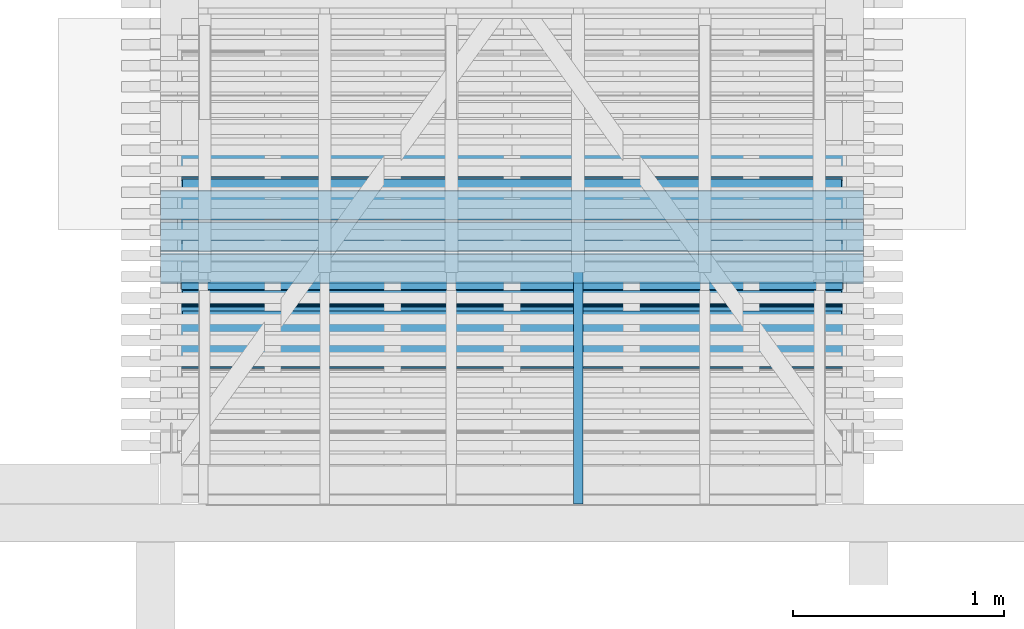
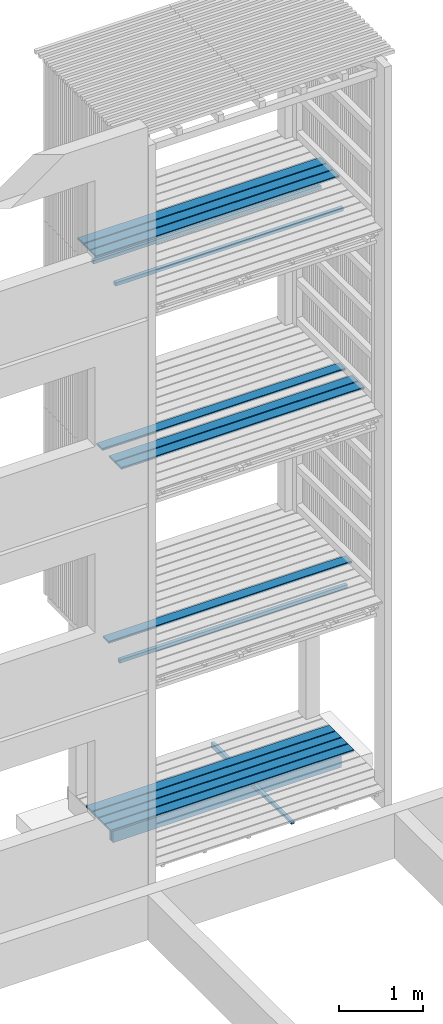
# One storey, part 120 of 182: 16 beams.
"""IFC2X3 building model written with IfcOpenShell, lengths in metres."""

from ifc_helpers import new_model, si_unit, frame, origin, place, context, project, spatial, faceted_brep, element, save


model = new_model("IFC2X3")

# Units and contexts
model_context = context("Model", 3, precision=1e-06, world=origin())
ifc_project = project(units=[si_unit("LENGTHUNIT", "METRE"), si_unit("PLANEANGLEUNIT", "RADIAN")], contexts=[model_context])

# Site, building, storey
site = spatial("IfcSite", under=ifc_project, CompositionType="ELEMENT")
building = spatial("IfcBuilding", under=site, CompositionType="ELEMENT")
storey = spatial("IfcBuildingStorey", under=building, Name="vs", CompositionType="ELEMENT", Elevation=-0.85)

# Beams
placement = place(None, origin())
beam_1_placement = place(placement, frame((56.24999999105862, 6.38341109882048, 7.86739999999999), z_axis=(0.0, 0.0, 1.0), x_axis=(-1.0, 0.0, 0.0)))
element("IfcBeam", 1, at=beam_1_placement, inside=storey, Name="Bardage", context=model_context, shape_type="Brep", body=[
    faceted_brep([(3.120000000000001, 0.025000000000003, -0.024999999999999), (3.120000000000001, 0.025000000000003, 0.025000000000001), (3.120000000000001, -0.025000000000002, 0.025000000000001), (3.120000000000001, -0.025000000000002, -0.024999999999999), (-3e-15, -0.025000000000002, -0.024999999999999), (-3e-15, -0.025000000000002, 0.025000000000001), (-3e-15, 0.024999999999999, 0.025000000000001), (-3e-15, 0.024999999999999, -0.024999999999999), (-3e-15, 0.024999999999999, -0.024999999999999), (-3e-15, 0.024999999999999, 0.025000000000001), (3.120000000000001, 0.025000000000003, 0.025000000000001), (3.120000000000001, 0.025000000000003, -0.024999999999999), (-3e-15, 0.024999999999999, 0.025000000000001), (-3e-15, -0.025000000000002, 0.025000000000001), (3.120000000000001, -0.025000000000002, 0.025000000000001), (3.120000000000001, 0.025000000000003, 0.025000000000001), (-3e-15, -0.025000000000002, 0.025000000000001), (-3e-15, -0.025000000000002, -0.024999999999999), (3.120000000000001, -0.025000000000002, -0.024999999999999), (3.120000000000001, -0.025000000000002, 0.025000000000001), (-3e-15, -0.025000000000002, -0.024999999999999), (-3e-15, 0.024999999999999, -0.024999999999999), (3.120000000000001, 0.025000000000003, -0.024999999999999), (3.120000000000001, -0.025000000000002, -0.024999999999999)], [[[0, 1, 2, 3]], [[4, 5, 6, 7]], [[8, 9, 10, 11]], [[12, 13, 14, 15]], [[16, 17, 18, 19]], [[20, 21, 22, 23]]]),
])
beam_2_placement = place(placement, frame((56.35499999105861, 5.834577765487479, 0.033500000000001), z_axis=(0.0, 0.0, 1.0), x_axis=(-1.0, 0.0, 0.0)))
element("IfcBeam", 2, at=beam_2_placement, inside=storey, Name="Caillebotis", context=model_context, shape_type="Brep", body=[
    faceted_brep([(3.329999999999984, -0.067499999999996, 0.0135), (3.329999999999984, -0.072499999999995, 0.008500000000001), (3.329999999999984, -0.072499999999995, -0.013500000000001), (3.329999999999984, 0.072500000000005, -0.013500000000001), (3.329999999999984, 0.072500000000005, 0.0085), (3.329999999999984, 0.067500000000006, 0.0135), (0.0, 0.067500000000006, 0.0135), (0.0, 0.072500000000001, 0.0085), (0.0, 0.072500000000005, -0.013500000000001), (0.0, -0.072499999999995, -0.013500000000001), (0.0, -0.072499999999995, 0.008500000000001), (0.0, -0.067499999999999, 0.0135), (3.329999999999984, -0.072499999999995, -0.013500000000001), (3.329999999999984, -0.072499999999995, 0.008500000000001), (0.0, -0.072499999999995, 0.008500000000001), (0.0, -0.072499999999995, -0.013500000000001), (3.329999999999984, 0.072500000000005, -0.013500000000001), (3.329999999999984, -0.072499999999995, -0.013500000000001), (0.0, -0.072499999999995, -0.013500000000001), (0.0, 0.072500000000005, -0.013500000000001), (3.329999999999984, 0.072500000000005, 0.0085), (3.329999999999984, 0.072500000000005, -0.013500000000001), (0.0, 0.072500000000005, -0.013500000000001), (0.0, 0.072500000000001, 0.0085), (3.329999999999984, 0.067500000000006, 0.0135), (3.329999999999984, 0.072500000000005, 0.0085), (0.0, 0.072500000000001, 0.0085), (0.0, 0.067500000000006, 0.0135), (3.329999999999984, -0.067499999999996, 0.0135), (3.329999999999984, 0.067500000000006, 0.0135), (0.0, 0.067500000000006, 0.0135), (0.0, -0.067499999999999, 0.0135), (0.0, -0.072499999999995, 0.008500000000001), (3.329999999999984, -0.072499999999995, 0.008500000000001), (3.329999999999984, -0.067499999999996, 0.0135), (0.0, -0.067499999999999, 0.0135)], [[[0, 1, 2, 3, 4, 5]], [[6, 7, 8, 9, 10, 11]], [[12, 13, 14, 15]], [[16, 17, 18, 19]], [[20, 21, 22, 23]], [[24, 25, 26, 27]], [[28, 29, 30, 31]], [[32, 33, 34, 35]]]),
])
beam_3_placement = place(placement, frame((56.35499999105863, 5.584577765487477, 5.433499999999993), z_axis=(0.0, 0.0, 1.0), x_axis=(-1.0, 0.0, 0.0)))
element("IfcBeam", 3, at=beam_3_placement, inside=storey, Name="Caillebotis", context=model_context, shape_type="Brep", body=[
    faceted_brep([(3.329999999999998, -0.072499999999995, -0.0135), (3.329999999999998, 0.072500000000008, -0.0135), (3.329999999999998, 0.072500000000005, 0.0085), (3.329999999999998, 0.067500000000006, 0.0135), (3.329999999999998, -0.067499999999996, 0.0135), (3.329999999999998, -0.072499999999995, 0.008500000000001), (0.0, -0.072499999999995, 0.008500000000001), (0.0, -0.067499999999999, 0.0135), (0.0, 0.067500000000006, 0.0135), (0.0, 0.072500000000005, 0.0085), (0.0, 0.072500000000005, -0.0135), (0.0, -0.072499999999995, -0.0135), (3.329999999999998, 0.072500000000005, 0.0085), (3.329999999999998, 0.072500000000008, -0.0135), (0.0, 0.072500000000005, -0.0135), (0.0, 0.072500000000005, 0.0085), (3.329999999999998, 0.067500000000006, 0.0135), (3.329999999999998, 0.072500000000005, 0.0085), (0.0, 0.072500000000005, 0.0085), (0.0, 0.067500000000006, 0.0135), (3.329999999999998, -0.067499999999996, 0.0135), (3.329999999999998, 0.067500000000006, 0.0135), (0.0, 0.067500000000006, 0.0135), (0.0, -0.067499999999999, 0.0135), (3.329999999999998, -0.072499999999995, 0.008500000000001), (3.329999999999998, -0.067499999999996, 0.0135), (0.0, -0.067499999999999, 0.0135), (0.0, -0.072499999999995, 0.008500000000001), (3.329999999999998, -0.072499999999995, -0.0135), (3.329999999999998, -0.072499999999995, 0.008500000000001), (0.0, -0.072499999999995, 0.008500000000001), (0.0, -0.072499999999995, -0.0135), (0.0, 0.072500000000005, -0.0135), (3.329999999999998, 0.072500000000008, -0.0135), (3.329999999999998, -0.072499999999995, -0.0135), (0.0, -0.072499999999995, -0.0135)], [[[0, 1, 2, 3, 4, 5]], [[6, 7, 8, 9, 10, 11]], [[12, 13, 14, 15]], [[16, 17, 18, 19]], [[20, 21, 22, 23]], [[24, 25, 26, 27]], [[28, 29, 30, 31]], [[32, 33, 34, 35]]]),
])
beam_4_placement = place(placement, frame((55.00299999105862, 4.870077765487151, -0.015599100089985), z_axis=(0.0, 0.0, 1.0), x_axis=(0.0, 1.0, 0.0)))
element("IfcBeam", 4, at=beam_4_placement, inside=storey, Name="Calage", context=model_context, shape_type="Brep", body=[
    faceted_brep([(0.0, 0.02249999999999, 0.002600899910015), (1.91000000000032, 0.02249999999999, -0.035599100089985), (1.91000000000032, -0.022499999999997, -0.035599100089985), (0.0, -0.022499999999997, 0.002600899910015), (0.0, -0.022499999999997, 0.035599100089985), (0.0, 0.02249999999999, 0.035599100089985), (0.0, 0.02249999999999, 0.002600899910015), (0.0, -0.022499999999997, 0.002600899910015), (0.0, 0.02249999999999, 0.035599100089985), (0.0, -0.022499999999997, 0.035599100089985), (1.91000000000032, -0.022499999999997, 0.035599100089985), (1.91000000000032, 0.02249999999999, 0.035599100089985), (0.0, 0.02249999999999, 0.002600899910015), (0.0, 0.02249999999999, 0.035599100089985), (1.91000000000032, 0.02249999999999, 0.035599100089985), (1.91000000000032, 0.02249999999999, -0.035599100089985), (1.91000000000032, 0.02249999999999, -0.035599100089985), (1.91000000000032, 0.02249999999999, 0.035599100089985), (1.91000000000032, -0.022499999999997, 0.035599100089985), (1.91000000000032, -0.022499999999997, -0.035599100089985), (1.91000000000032, -0.022499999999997, -0.035599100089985), (1.91000000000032, -0.022499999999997, 0.035599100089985), (0.0, -0.022499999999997, 0.035599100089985), (0.0, -0.022499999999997, 0.002600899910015)], [[[0, 1, 2, 3]], [[4, 5, 6, 7]], [[8, 9, 10, 11]], [[12, 13, 14, 15]], [[16, 17, 18, 19]], [[20, 21, 22, 23]]]),
])
beam_5_placement = place(placement, frame((56.24999999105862, 5.855077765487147, 7.867999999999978), z_axis=(0.0, 0.0, 1.0), x_axis=(-1.0, -1e-15, 0.0)))
element("IfcBeam", 5, at=beam_5_placement, inside=storey, Name="Bardage", context=model_context, shape_type="Brep", body=[
    faceted_brep([(3.120000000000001, 0.025000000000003, -0.025000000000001), (3.120000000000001, -0.025000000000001, -0.025000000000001), (-3e-15, -0.024999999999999, -0.025000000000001), (-3e-15, 0.025000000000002, -0.025000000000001), (-3e-15, -0.024999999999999, -0.025000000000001), (3.120000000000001, -0.025000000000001, -0.025000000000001), (3.120000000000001, -0.025000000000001, 0.024999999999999), (-3e-15, -0.024999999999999, 0.024999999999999), (3.120000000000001, -0.025000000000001, -0.025000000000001), (3.120000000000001, 0.025000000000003, -0.025000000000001), (3.120000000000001, 0.025000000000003, 0.024999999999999), (3.120000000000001, -0.025000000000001, 0.024999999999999), (3.120000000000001, 0.025000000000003, 0.024999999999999), (3.120000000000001, 0.025000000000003, -0.025000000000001), (-3e-15, 0.025000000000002, -0.025000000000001), (-3e-15, 0.025000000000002, 0.024999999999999), (-3e-15, -0.024999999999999, 0.024999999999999), (3.120000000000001, -0.025000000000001, 0.024999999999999), (3.120000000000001, 0.025000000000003, 0.024999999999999), (-3e-15, 0.025000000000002, 0.024999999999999), (-3e-15, -0.024999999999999, -0.025000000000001), (-3e-15, -0.024999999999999, 0.024999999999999), (-3e-15, 0.025000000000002, 0.024999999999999), (-3e-15, 0.025000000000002, -0.025000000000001)], [[[0, 1, 2, 3]], [[4, 5, 6, 7]], [[8, 9, 10, 11]], [[12, 13, 14, 15]], [[16, 17, 18, 19]], [[20, 21, 22, 23]]]),
])
beam_6_placement = place(placement, frame((56.35499999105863, 5.734577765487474, 5.433499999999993), z_axis=(0.0, 0.0, 1.0), x_axis=(-1.0, 0.0, 0.0)))
element("IfcBeam", 6, at=beam_6_placement, inside=storey, Name="Caillebotis", context=model_context, shape_type="Brep", body=[
    faceted_brep([(3.329999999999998, -0.072499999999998, -0.0135), (3.329999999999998, 0.072500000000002, -0.0135), (3.329999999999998, 0.072500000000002, 0.0085), (3.329999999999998, 0.067500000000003, 0.0135), (3.329999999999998, -0.067500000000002, 0.0135), (3.329999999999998, -0.072499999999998, 0.008500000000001), (0.0, -0.072499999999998, 0.008500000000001), (0.0, -0.067500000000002, 0.0135), (0.0, 0.067500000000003, 0.0135), (0.0, 0.072499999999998, 0.0085), (0.0, 0.072499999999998, -0.0135), (0.0, -0.072499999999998, -0.0135), (3.329999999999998, 0.072500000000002, 0.0085), (3.329999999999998, 0.072500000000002, -0.0135), (0.0, 0.072499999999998, -0.0135), (0.0, 0.072499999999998, 0.0085), (3.329999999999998, 0.067500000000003, 0.0135), (3.329999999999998, 0.072500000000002, 0.0085), (0.0, 0.072499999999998, 0.0085), (0.0, 0.067500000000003, 0.0135), (3.329999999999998, -0.067500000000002, 0.0135), (3.329999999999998, 0.067500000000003, 0.0135), (0.0, 0.067500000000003, 0.0135), (0.0, -0.067500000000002, 0.0135), (3.329999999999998, -0.072499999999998, 0.008500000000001), (3.329999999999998, -0.067500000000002, 0.0135), (0.0, -0.067500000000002, 0.0135), (0.0, -0.072499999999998, 0.008500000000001), (3.329999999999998, -0.072499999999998, -0.0135), (3.329999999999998, -0.072499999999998, 0.008500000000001), (0.0, -0.072499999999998, 0.008500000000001), (0.0, -0.072499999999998, -0.0135), (0.0, 0.072499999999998, -0.0135), (3.329999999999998, 0.072500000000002, -0.0135), (3.329999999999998, -0.072499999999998, -0.0135), (0.0, -0.072499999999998, -0.0135)], [[[0, 1, 2, 3, 4, 5]], [[6, 7, 8, 9, 10, 11]], [[12, 13, 14, 15]], [[16, 17, 18, 19]], [[20, 21, 22, 23]], [[24, 25, 26, 27]], [[28, 29, 30, 31]], [[32, 33, 34, 35]]]),
])
beam_7_placement = place(placement, frame((56.35499999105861, 6.134577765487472, 0.033500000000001), z_axis=(0.0, 0.0, 1.0), x_axis=(-1.0, 0.0, 0.0)))
element("IfcBeam", 7, at=beam_7_placement, inside=storey, Name="Caillebotis", context=model_context, shape_type="Brep", body=[
    faceted_brep([(3.329999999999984, -0.067500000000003, 0.0135), (3.329999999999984, -0.072499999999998, 0.008500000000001), (3.329999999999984, -0.072499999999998, -0.013500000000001), (3.329999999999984, 0.072499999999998, -0.013500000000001), (3.329999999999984, 0.072499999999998, 0.0085), (3.329999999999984, 0.067500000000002, 0.0135), (0.0, 0.067499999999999, 0.0135), (0.0, 0.072499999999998, 0.0085), (0.0, 0.072499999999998, -0.013500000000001), (0.0, -0.072500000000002, -0.013500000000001), (0.0, -0.072500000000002, 0.008500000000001), (0.0, -0.067500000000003, 0.0135), (3.329999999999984, -0.072499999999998, -0.013500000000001), (3.329999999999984, -0.072499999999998, 0.008500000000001), (0.0, -0.072500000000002, 0.008500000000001), (0.0, -0.072500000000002, -0.013500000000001), (3.329999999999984, 0.072499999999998, -0.013500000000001), (3.329999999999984, -0.072499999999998, -0.013500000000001), (0.0, -0.072500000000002, -0.013500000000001), (0.0, 0.072499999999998, -0.013500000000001), (3.329999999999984, 0.072499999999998, 0.0085), (3.329999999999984, 0.072499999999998, -0.013500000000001), (0.0, 0.072499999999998, -0.013500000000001), (0.0, 0.072499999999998, 0.0085), (3.329999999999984, 0.067500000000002, 0.0135), (3.329999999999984, 0.072499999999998, 0.0085), (0.0, 0.072499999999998, 0.0085), (0.0, 0.067499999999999, 0.0135), (3.329999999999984, -0.067500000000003, 0.0135), (3.329999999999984, 0.067500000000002, 0.0135), (0.0, 0.067499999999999, 0.0135), (0.0, -0.067500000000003, 0.0135), (0.0, -0.072500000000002, 0.008500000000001), (3.329999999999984, -0.072499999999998, 0.008500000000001), (3.329999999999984, -0.067500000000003, 0.0135), (0.0, -0.067500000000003, 0.0135)], [[[0, 1, 2, 3, 4, 5]], [[6, 7, 8, 9, 10, 11]], [[12, 13, 14, 15]], [[16, 17, 18, 19]], [[20, 21, 22, 23]], [[24, 25, 26, 27]], [[28, 29, 30, 31]], [[32, 33, 34, 35]]]),
])
beam_8_placement = place(placement, frame((56.35499999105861, 5.984577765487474, 0.033500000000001), z_axis=(0.0, 0.0, 1.0), x_axis=(-1.0, 0.0, 0.0)))
element("IfcBeam", 8, at=beam_8_placement, inside=storey, Name="Caillebotis", context=model_context, shape_type="Brep", body=[
    faceted_brep([(3.329999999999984, -0.067500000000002, 0.0135), (3.329999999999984, -0.072499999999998, 0.008500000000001), (3.329999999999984, -0.072499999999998, -0.013500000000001), (3.329999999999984, 0.072500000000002, -0.013500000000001), (3.329999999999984, 0.072499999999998, 0.0085), (3.329999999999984, 0.067500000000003, 0.0135), (0.0, 0.067500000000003, 0.0135), (0.0, 0.072499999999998, 0.0085), (0.0, 0.072499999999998, -0.013500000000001), (0.0, -0.072500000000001, -0.013500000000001), (0.0, -0.072500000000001, 0.008500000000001), (0.0, -0.067500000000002, 0.0135), (3.329999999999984, -0.072499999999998, -0.013500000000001), (3.329999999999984, -0.072499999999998, 0.008500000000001), (0.0, -0.072500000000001, 0.008500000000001), (0.0, -0.072500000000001, -0.013500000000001), (3.329999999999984, 0.072500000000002, -0.013500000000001), (3.329999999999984, -0.072499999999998, -0.013500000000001), (0.0, -0.072500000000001, -0.013500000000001), (0.0, 0.072499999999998, -0.013500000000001), (3.329999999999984, 0.072499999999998, 0.0085), (3.329999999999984, 0.072500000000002, -0.013500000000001), (0.0, 0.072499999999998, -0.013500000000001), (0.0, 0.072499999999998, 0.0085), (3.329999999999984, 0.067500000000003, 0.0135), (3.329999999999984, 0.072499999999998, 0.0085), (0.0, 0.072499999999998, 0.0085), (0.0, 0.067500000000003, 0.0135), (3.329999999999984, -0.067500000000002, 0.0135), (3.329999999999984, 0.067500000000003, 0.0135), (0.0, 0.067500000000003, 0.0135), (0.0, -0.067500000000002, 0.0135), (0.0, -0.072500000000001, 0.008500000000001), (3.329999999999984, -0.072499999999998, 0.008500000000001), (3.329999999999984, -0.067500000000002, 0.0135), (0.0, -0.067500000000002, 0.0135)], [[[0, 1, 2, 3, 4, 5]], [[6, 7, 8, 9, 10, 11]], [[12, 13, 14, 15]], [[16, 17, 18, 19]], [[20, 21, 22, 23]], [[24, 25, 26, 27]], [[28, 29, 30, 31]], [[32, 33, 34, 35]]]),
])
beam_9_placement = place(placement, frame((56.35499999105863, 6.184577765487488, 8.13349999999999), z_axis=(0.0, 0.0, 1.0), x_axis=(-1.0, -8e-15, 0.0)))
element("IfcBeam", 9, at=beam_9_placement, inside=storey, Name="Caillebotis", context=model_context, shape_type="Brep", body=[
    faceted_brep([(3.329999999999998, -0.072500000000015, -0.013500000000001), (3.329999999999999, 0.072499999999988, -0.013500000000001), (3.329999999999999, 0.072499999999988, 0.008499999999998), (3.329999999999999, 0.067499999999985, 0.013499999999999), (3.329999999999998, -0.067500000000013, 0.013499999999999), (3.329999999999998, -0.072500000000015, 0.0085), (-1e-15, -0.072499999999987, 0.0085), (-1e-15, -0.067499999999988, 0.013499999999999), (1e-15, 0.067500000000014, 0.013499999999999), (1e-15, 0.072500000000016, 0.008499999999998), (1e-15, 0.072500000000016, -0.013500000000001), (-1e-15, -0.072499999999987, -0.013500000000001), (3.329999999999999, 0.072499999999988, 0.008499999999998), (3.329999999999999, 0.072499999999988, -0.013500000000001), (1e-15, 0.072500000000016, -0.013500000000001), (1e-15, 0.072500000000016, 0.008499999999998), (3.329999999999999, 0.067499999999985, 0.013499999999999), (3.329999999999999, 0.072499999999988, 0.008499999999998), (1e-15, 0.072500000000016, 0.008499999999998), (1e-15, 0.067500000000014, 0.013499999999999), (3.329999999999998, -0.067500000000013, 0.013499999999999), (3.329999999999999, 0.067499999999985, 0.013499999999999), (1e-15, 0.067500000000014, 0.013499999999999), (-1e-15, -0.067499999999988, 0.013499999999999), (3.329999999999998, -0.072500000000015, 0.0085), (3.329999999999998, -0.067500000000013, 0.013499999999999), (-1e-15, -0.067499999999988, 0.013499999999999), (-1e-15, -0.072499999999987, 0.0085), (3.329999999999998, -0.072500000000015, -0.013500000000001), (3.329999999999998, -0.072500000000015, 0.0085), (-1e-15, -0.072499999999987, 0.0085), (-1e-15, -0.072499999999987, -0.013500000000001), (1e-15, 0.072500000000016, -0.013500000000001), (3.329999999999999, 0.072499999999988, -0.013500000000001), (3.329999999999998, -0.072500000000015, -0.013500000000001), (-1e-15, -0.072499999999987, -0.013500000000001)], [[[0, 1, 2, 3, 4, 5]], [[6, 7, 8, 9, 10, 11]], [[12, 13, 14, 15]], [[16, 17, 18, 19]], [[20, 21, 22, 23]], [[24, 25, 26, 27]], [[28, 29, 30, 31]], [[32, 33, 34, 35]]]),
])
beam_10_placement = place(placement, frame((56.35499999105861, 5.884577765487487, 2.733499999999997), z_axis=(0.0, 0.0, 1.0), x_axis=(-1.0, -8e-15, 0.0)))
element("IfcBeam", 10, at=beam_10_placement, inside=storey, Name="Caillebotis", context=model_context, shape_type="Brep", body=[
    faceted_brep([(3.329999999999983, -0.072500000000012, -0.0135), (3.329999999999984, 0.072499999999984, -0.0135), (3.329999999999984, 0.072499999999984, 0.0085), (3.329999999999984, 0.067499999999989, 0.0135), (3.329999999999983, -0.067500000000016, 0.0135), (3.329999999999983, -0.072500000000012, 0.008500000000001), (-1.5e-14, -0.072499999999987, 0.008500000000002), (-1.5e-14, -0.067499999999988, 0.0135), (-1.4e-14, 0.067500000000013, 0.0135), (-1.4e-14, 0.072500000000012, 0.0085), (-1.4e-14, 0.072500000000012, -0.0135), (-1.5e-14, -0.072499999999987, -0.0135), (3.329999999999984, 0.072499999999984, 0.0085), (3.329999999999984, 0.072499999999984, -0.0135), (-1.4e-14, 0.072500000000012, -0.0135), (-1.4e-14, 0.072500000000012, 0.0085), (3.329999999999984, 0.067499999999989, 0.0135), (3.329999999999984, 0.072499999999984, 0.0085), (-1.4e-14, 0.072500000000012, 0.0085), (-1.4e-14, 0.067500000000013, 0.0135), (3.329999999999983, -0.067500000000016, 0.0135), (3.329999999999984, 0.067499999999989, 0.0135), (-1.4e-14, 0.067500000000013, 0.0135), (-1.5e-14, -0.067499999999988, 0.0135), (3.329999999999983, -0.072500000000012, 0.008500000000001), (3.329999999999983, -0.067500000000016, 0.0135), (-1.5e-14, -0.067499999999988, 0.0135), (-1.5e-14, -0.072499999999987, 0.008500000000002), (3.329999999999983, -0.072500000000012, -0.0135), (3.329999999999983, -0.072500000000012, 0.008500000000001), (-1.5e-14, -0.072499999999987, 0.008500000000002), (-1.5e-14, -0.072499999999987, -0.0135), (-1.4e-14, 0.072500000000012, -0.0135), (3.329999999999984, 0.072499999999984, -0.0135), (3.329999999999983, -0.072500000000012, -0.0135), (-1.5e-14, -0.072499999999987, -0.0135)], [[[0, 1, 2, 3, 4, 5]], [[6, 7, 8, 9, 10, 11]], [[12, 13, 14, 15]], [[16, 17, 18, 19]], [[20, 21, 22, 23]], [[24, 25, 26, 27]], [[28, 29, 30, 31]], [[32, 33, 34, 35]]]),
])
beam_11_placement = place(placement, frame((56.24999999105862, 5.758202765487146, 2.467999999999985), z_axis=(0.0, 0.0, 1.0), x_axis=(-1.0, -1e-15, 0.0)))
element("IfcBeam", 11, at=beam_11_placement, inside=storey, Name="Bardage", context=model_context, shape_type="Brep", body=[
    faceted_brep([(3.120000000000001, 0.024999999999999, -0.025), (3.120000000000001, -0.025000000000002, -0.025), (-3e-15, -0.025000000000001, -0.025), (-3e-15, 0.025000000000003, -0.025), (-3e-15, -0.025000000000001, -0.025), (3.120000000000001, -0.025000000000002, -0.025), (3.120000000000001, -0.025000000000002, 0.025), (-3e-15, -0.025000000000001, 0.025), (3.120000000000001, -0.025000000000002, -0.025), (3.120000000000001, 0.024999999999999, -0.025), (3.120000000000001, 0.024999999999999, 0.025), (3.120000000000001, -0.025000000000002, 0.025), (3.120000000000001, 0.024999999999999, 0.025), (3.120000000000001, 0.024999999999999, -0.025), (-3e-15, 0.025000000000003, -0.025), (-3e-15, 0.025000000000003, 0.025), (-3e-15, -0.025000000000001, 0.025), (3.120000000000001, -0.025000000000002, 0.025), (3.120000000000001, 0.024999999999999, 0.025), (-3e-15, 0.025000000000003, 0.025), (-3e-15, -0.025000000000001, -0.025), (-3e-15, -0.025000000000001, 0.025), (-3e-15, 0.025000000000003, 0.025), (-3e-15, 0.025000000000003, -0.025)], [[[0, 1, 2, 3]], [[4, 5, 6, 7]], [[8, 9, 10, 11]], [[12, 13, 14, 15]], [[16, 17, 18, 19]], [[20, 21, 22, 23]]]),
])
beam_12_placement = place(placement, frame((56.35499999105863, 6.484577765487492, 8.133499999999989), z_axis=(0.0, 0.0, 1.0), x_axis=(-1.0, -1e-14, 0.0)))
element("IfcBeam", 12, at=beam_12_placement, inside=storey, Name="Caillebotis", context=model_context, shape_type="Brep", body=[
    faceted_brep([(3.329999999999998, -0.072500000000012, -0.013499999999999), (3.329999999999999, 0.072499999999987, -0.013499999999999), (3.329999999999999, 0.072499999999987, 0.0085), (3.329999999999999, 0.067499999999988, 0.013500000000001), (3.329999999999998, -0.067500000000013, 0.013500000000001), (3.329999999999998, -0.072500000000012, 0.008500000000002), (-1e-15, -0.07249999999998, 0.008500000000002), (-1e-15, -0.067499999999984, 0.013500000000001), (1e-15, 0.067500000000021, 0.013500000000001), (1e-15, 0.072500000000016, 0.0085), (1e-15, 0.072500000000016, -0.013499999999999), (-1e-15, -0.07249999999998, -0.013499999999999), (3.329999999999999, 0.072499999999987, 0.0085), (3.329999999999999, 0.072499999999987, -0.013499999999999), (1e-15, 0.072500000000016, -0.013499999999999), (1e-15, 0.072500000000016, 0.0085), (3.329999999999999, 0.067499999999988, 0.013500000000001), (3.329999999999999, 0.072499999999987, 0.0085), (1e-15, 0.072500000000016, 0.0085), (1e-15, 0.067500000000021, 0.013500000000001), (3.329999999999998, -0.067500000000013, 0.013500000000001), (3.329999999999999, 0.067499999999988, 0.013500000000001), (1e-15, 0.067500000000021, 0.013500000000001), (-1e-15, -0.067499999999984, 0.013500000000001), (3.329999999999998, -0.072500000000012, 0.008500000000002), (3.329999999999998, -0.067500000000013, 0.013500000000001), (-1e-15, -0.067499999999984, 0.013500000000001), (-1e-15, -0.07249999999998, 0.008500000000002), (3.329999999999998, -0.072500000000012, -0.013499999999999), (3.329999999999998, -0.072500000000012, 0.008500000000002), (-1e-15, -0.07249999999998, 0.008500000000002), (-1e-15, -0.07249999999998, -0.013499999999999), (1e-15, 0.072500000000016, -0.013499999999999), (3.329999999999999, 0.072499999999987, -0.013499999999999), (3.329999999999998, -0.072500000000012, -0.013499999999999), (-1e-15, -0.07249999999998, -0.013499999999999)], [[[0, 1, 2, 3, 4, 5]], [[6, 7, 8, 9, 10, 11]], [[12, 13, 14, 15]], [[16, 17, 18, 19]], [[20, 21, 22, 23]], [[24, 25, 26, 27]], [[28, 29, 30, 31]], [[32, 33, 34, 35]]]),
])
beam_13_placement = place(placement, frame((56.35499999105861, 6.284577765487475, 0.033500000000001), z_axis=(0.0, 0.0, 1.0), x_axis=(-1.0, -1e-15, 0.0)))
element("IfcBeam", 13, at=beam_13_placement, inside=storey, Name="Caillebotis", context=model_context, shape_type="Brep", body=[
    faceted_brep([(3.329999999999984, -0.067500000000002, 0.0135), (3.329999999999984, -0.072500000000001, 0.008500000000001), (3.329999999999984, -0.072500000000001, -0.013500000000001), (3.329999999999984, 0.072499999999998, -0.013500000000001), (3.329999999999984, 0.072499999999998, 0.0085), (3.329999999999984, 0.067499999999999, 0.0135), (0.0, 0.0675, 0.0135), (0.0, 0.072500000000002, 0.0085), (0.0, 0.072500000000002, -0.013500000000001), (0.0, -0.072500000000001, -0.013500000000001), (0.0, -0.072500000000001, 0.008500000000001), (0.0, -0.067499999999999, 0.0135), (3.329999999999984, -0.072500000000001, -0.013500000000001), (3.329999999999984, -0.072500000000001, 0.008500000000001), (0.0, -0.072500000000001, 0.008500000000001), (0.0, -0.072500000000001, -0.013500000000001), (3.329999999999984, 0.072499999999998, -0.013500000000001), (3.329999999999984, -0.072500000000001, -0.013500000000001), (0.0, -0.072500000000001, -0.013500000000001), (0.0, 0.072500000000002, -0.013500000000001), (3.329999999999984, 0.072499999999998, 0.0085), (3.329999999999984, 0.072499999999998, -0.013500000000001), (0.0, 0.072500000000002, -0.013500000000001), (0.0, 0.072500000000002, 0.0085), (3.329999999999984, 0.067499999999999, 0.0135), (3.329999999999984, 0.072499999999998, 0.0085), (0.0, 0.072500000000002, 0.0085), (0.0, 0.0675, 0.0135), (3.329999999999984, -0.067500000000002, 0.0135), (3.329999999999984, 0.067499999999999, 0.0135), (0.0, 0.0675, 0.0135), (0.0, -0.067499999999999, 0.0135), (0.0, -0.072500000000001, 0.008500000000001), (3.329999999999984, -0.072500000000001, 0.008500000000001), (3.329999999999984, -0.067500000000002, 0.0135), (0.0, -0.067499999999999, 0.0135)], [[[0, 1, 2, 3, 4, 5]], [[6, 7, 8, 9, 10, 11]], [[12, 13, 14, 15]], [[16, 17, 18, 19]], [[20, 21, 22, 23]], [[24, 25, 26, 27]], [[28, 29, 30, 31]], [[32, 33, 34, 35]]]),
])
beam_14_placement = place(placement, frame((56.35499999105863, 6.33457776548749, 8.13349999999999), z_axis=(0.0, 0.0, 1.0), x_axis=(-1.0, -8e-15, 0.0)))
element("IfcBeam", 14, at=beam_14_placement, inside=storey, Name="Caillebotis", context=model_context, shape_type="Brep", body=[
    faceted_brep([(3.329999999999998, -0.072500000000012, -0.013500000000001), (3.329999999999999, 0.072499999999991, -0.013500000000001), (3.329999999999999, 0.072499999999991, 0.008499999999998), (3.329999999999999, 0.067499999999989, 0.013499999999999), (3.329999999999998, -0.067500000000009, 0.013499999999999), (3.329999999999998, -0.072500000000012, 0.0085), (-1e-15, -0.072499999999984, 0.0085), (-1e-15, -0.067499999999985, 0.013499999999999), (1e-15, 0.067500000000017, 0.013499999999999), (1e-15, 0.072500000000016, 0.008499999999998), (1e-15, 0.072500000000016, -0.013500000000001), (-1e-15, -0.072499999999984, -0.013500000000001), (3.329999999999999, 0.072499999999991, 0.008499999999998), (3.329999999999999, 0.072499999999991, -0.013500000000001), (1e-15, 0.072500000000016, -0.013500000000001), (1e-15, 0.072500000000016, 0.008499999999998), (3.329999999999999, 0.067499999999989, 0.013499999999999), (3.329999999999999, 0.072499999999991, 0.008499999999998), (1e-15, 0.072500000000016, 0.008499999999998), (1e-15, 0.067500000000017, 0.013499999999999), (3.329999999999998, -0.067500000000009, 0.013499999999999), (3.329999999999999, 0.067499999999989, 0.013499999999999), (1e-15, 0.067500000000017, 0.013499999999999), (-1e-15, -0.067499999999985, 0.013499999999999), (3.329999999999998, -0.072500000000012, 0.0085), (3.329999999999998, -0.067500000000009, 0.013499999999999), (-1e-15, -0.067499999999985, 0.013499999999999), (-1e-15, -0.072499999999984, 0.0085), (3.329999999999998, -0.072500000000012, -0.013500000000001), (3.329999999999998, -0.072500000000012, 0.0085), (-1e-15, -0.072499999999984, 0.0085), (-1e-15, -0.072499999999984, -0.013500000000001), (1e-15, 0.072500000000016, -0.013500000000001), (3.329999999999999, 0.072499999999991, -0.013500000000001), (3.329999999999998, -0.072500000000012, -0.013500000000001), (-1e-15, -0.072499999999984, -0.013500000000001)], [[[0, 1, 2, 3, 4, 5]], [[6, 7, 8, 9, 10, 11]], [[12, 13, 14, 15]], [[16, 17, 18, 19]], [[20, 21, 22, 23]], [[24, 25, 26, 27]], [[28, 29, 30, 31]], [[32, 33, 34, 35]]]),
])
beam_15_placement = place(placement, frame((56.25499999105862, 5.925077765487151, -0.143899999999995), z_axis=(0.0, 0.0, 1.0), x_axis=(-1.0, -2e-15, 0.0)))
element("IfcBeam", 15, at=beam_15_placement, inside=storey, Name="Sommier", context=model_context, shape_type="Brep", body=[
    faceted_brep([(0.137000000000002, -0.003999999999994, 0.1), (0.137000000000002, -0.003999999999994, -0.1), (1e-15, -0.003999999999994, -0.1), (1e-15, -0.003999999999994, 0.1), (0.137000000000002, 0.004000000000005, -0.1), (0.137000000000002, -0.003999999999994, -0.1), (0.137000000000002, -0.003999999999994, 0.1), (0.137000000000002, 0.004000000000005, 0.1), (0.137000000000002, 0.004000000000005, -0.1), (0.137000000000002, 0.004000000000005, 0.1), (1e-15, 0.004000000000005, 0.1), (1e-15, 0.004000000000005, -0.1), (1e-15, -0.003999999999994, 0.1), (1e-15, -0.003999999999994, -0.1), (1e-15, -0.039999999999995, -0.1), (1e-15, -0.039999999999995, 0.1), (1e-15, 0.040000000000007, 0.1), (1e-15, 0.040000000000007, -0.1), (1e-15, 0.004000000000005, -0.1), (1e-15, 0.004000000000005, 0.1), (3.129999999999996, 0.004000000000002, 0.1), (2.992999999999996, 0.004000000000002, 0.1), (2.992999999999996, 0.004000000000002, -0.1), (3.129999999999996, 0.004000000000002, -0.1), (2.992999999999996, -0.004000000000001, 0.1), (2.992999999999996, -0.004000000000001, -0.1), (2.992999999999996, 0.004000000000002, -0.1), (2.992999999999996, 0.004000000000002, 0.1), (3.129999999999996, -0.004000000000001, -0.1), (2.992999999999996, -0.004000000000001, -0.1), (2.992999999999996, -0.004000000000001, 0.1), (3.129999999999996, -0.004000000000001, 0.1), (3.129999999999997, 0.04, 0.1), (3.129999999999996, 0.004000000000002, 0.1), (3.129999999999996, 0.004000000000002, -0.1), (3.129999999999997, 0.04, -0.1), (3.129999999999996, -0.040000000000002, 0.1), (3.129999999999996, -0.040000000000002, -0.1), (3.129999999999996, -0.004000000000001, -0.1), (3.129999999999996, -0.004000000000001, 0.1), (1e-15, -0.039999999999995, -0.1), (1e-15, -0.003999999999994, -0.1), (0.137000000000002, -0.003999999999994, -0.1), (0.137000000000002, 0.004000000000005, -0.1), (1e-15, 0.004000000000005, -0.1), (1e-15, 0.040000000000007, -0.1), (3.129999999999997, 0.04, -0.1), (3.129999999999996, 0.004000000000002, -0.1), (2.992999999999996, 0.004000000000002, -0.1), (2.992999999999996, -0.004000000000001, -0.1), (3.129999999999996, -0.004000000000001, -0.1), (3.129999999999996, -0.040000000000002, -0.1), (2.992999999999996, 0.004000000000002, 0.1), (3.129999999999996, 0.004000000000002, 0.1), (3.129999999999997, 0.04, 0.1), (1e-15, 0.040000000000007, 0.1), (1e-15, 0.004000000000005, 0.1), (0.137000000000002, 0.004000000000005, 0.1), (0.137000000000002, -0.003999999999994, 0.1), (1e-15, -0.003999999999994, 0.1), (1e-15, -0.039999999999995, 0.1), (3.129999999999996, -0.040000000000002, 0.1), (3.129999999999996, -0.004000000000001, 0.1), (2.992999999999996, -0.004000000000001, 0.1), (1e-15, 0.040000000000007, 0.1), (3.129999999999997, 0.04, 0.1), (3.129999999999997, 0.04, -0.1), (1e-15, 0.040000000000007, -0.1), (1e-15, -0.039999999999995, -0.1), (3.129999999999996, -0.040000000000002, -0.1), (3.129999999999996, -0.040000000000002, 0.1), (1e-15, -0.039999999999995, 0.1)], [[[0, 1, 2, 3]], [[4, 5, 6, 7]], [[8, 9, 10, 11]], [[12, 13, 14, 15]], [[16, 17, 18, 19]], [[20, 21, 22, 23]], [[24, 25, 26, 27]], [[28, 29, 30, 31]], [[32, 33, 34, 35]], [[36, 37, 38, 39]], [[40, 41, 42, 43, 44, 45, 46, 47, 48, 49, 50, 51]], [[52, 53, 54, 55, 56, 57, 58, 59, 60, 61, 62, 63]], [[64, 65, 66, 67]], [[68, 69, 70, 71]]]),
])
beam_16_placement = place(placement, frame((56.35499999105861, 6.034577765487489, 5.433499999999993), z_axis=(0.0, 0.0, 1.0), x_axis=(-1.0, -1e-14, 0.0)))
element("IfcBeam", 16, at=beam_16_placement, inside=storey, Name="Caillebotis", context=model_context, shape_type="Brep", body=[
    faceted_brep([(3.329999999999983, -0.072500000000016, -0.0135), (3.329999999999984, 0.072499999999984, -0.0135), (3.329999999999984, 0.072499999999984, 0.0085), (3.329999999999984, 0.067499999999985, 0.0135), (3.329999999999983, -0.067500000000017, 0.0135), (3.329999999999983, -0.072500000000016, 0.008500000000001), (-1.5e-14, -0.072499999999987, 0.008500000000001), (-1.5e-14, -0.067499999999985, 0.0135), (-1.4e-14, 0.067500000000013, 0.0135), (-1.4e-14, 0.072500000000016, 0.0085), (-1.4e-14, 0.072500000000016, -0.0135), (-1.5e-14, -0.072499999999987, -0.0135), (3.329999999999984, 0.072499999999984, 0.0085), (3.329999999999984, 0.072499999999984, -0.0135), (-1.4e-14, 0.072500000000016, -0.0135), (-1.4e-14, 0.072500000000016, 0.0085), (3.329999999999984, 0.067499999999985, 0.0135), (3.329999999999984, 0.072499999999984, 0.0085), (-1.4e-14, 0.072500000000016, 0.0085), (-1.4e-14, 0.067500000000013, 0.0135), (3.329999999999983, -0.067500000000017, 0.0135), (3.329999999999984, 0.067499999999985, 0.0135), (-1.4e-14, 0.067500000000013, 0.0135), (-1.5e-14, -0.067499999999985, 0.0135), (3.329999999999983, -0.072500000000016, 0.008500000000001), (3.329999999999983, -0.067500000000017, 0.0135), (-1.5e-14, -0.067499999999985, 0.0135), (-1.5e-14, -0.072499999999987, 0.008500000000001), (3.329999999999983, -0.072500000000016, -0.0135), (3.329999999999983, -0.072500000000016, 0.008500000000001), (-1.5e-14, -0.072499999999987, 0.008500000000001), (-1.5e-14, -0.072499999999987, -0.0135), (-1.4e-14, 0.072500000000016, -0.0135), (3.329999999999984, 0.072499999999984, -0.0135), (3.329999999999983, -0.072500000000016, -0.0135), (-1.5e-14, -0.072499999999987, -0.0135)], [[[0, 1, 2, 3, 4, 5]], [[6, 7, 8, 9, 10, 11]], [[12, 13, 14, 15]], [[16, 17, 18, 19]], [[20, 21, 22, 23]], [[24, 25, 26, 27]], [[28, 29, 30, 31]], [[32, 33, 34, 35]]]),
])

save(model, "model.ifc")
